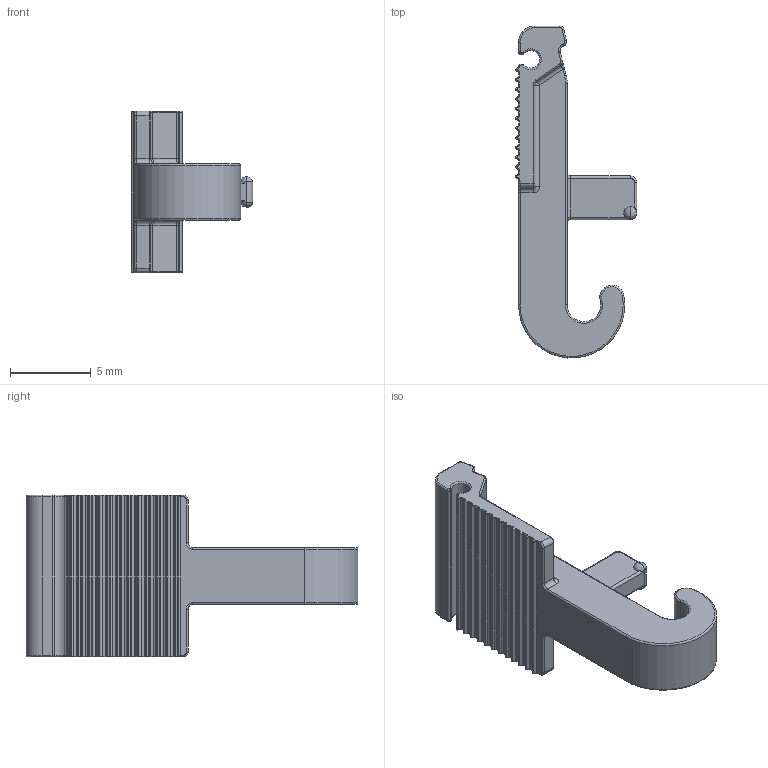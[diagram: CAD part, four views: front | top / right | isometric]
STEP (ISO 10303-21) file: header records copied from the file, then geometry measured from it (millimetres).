
FILE_DESCRIPTION((''),'2;1');
FILE_NAME('AB0000X00000G','2022-07-08T',('renkang.li'),(''),'CREO PARAMETRIC BY PTC INC, 2016260','CREO PARAMETRIC BY PTC INC, 2016260','');
FILE_SCHEMA(('CONFIG_CONTROL_DESIGN'));
Length unit declared in the file: millimetre
Products named in the file (1): AB0000X00000G
Bounding box: 7.51 x 20.49 x 10 mm (x, y, z)
Volume: 342 mm3; surface area: 555.8 mm2
Topology: 1 solids, 1 shells, 365 faces, 821 edges, 459 vertices
Faces by surface type: cylinder 171, torus 82, plane 60, bspline 26, sphere 26
Entity records: 11287 total; most frequent: CARTESIAN_POINT 3044, DIRECTION 1900, ORIENTED_EDGE 1642, EDGE_CURVE 821, AXIS2_PLACEMENT_3D 782, VERTEX_POINT 459, CIRCLE 443, EDGE_LOOP 366
